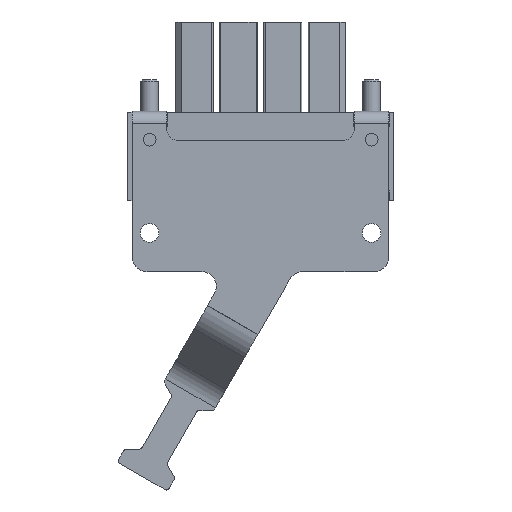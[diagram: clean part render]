
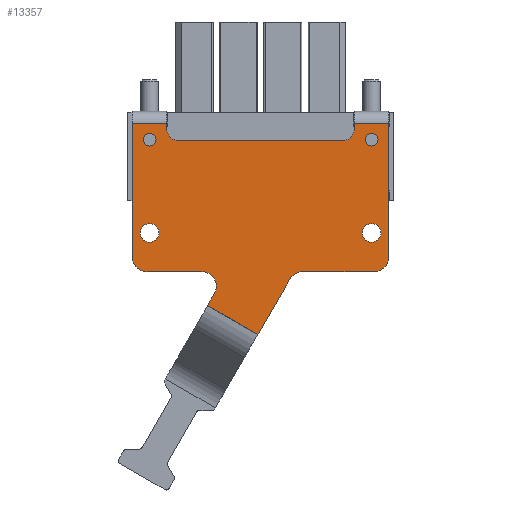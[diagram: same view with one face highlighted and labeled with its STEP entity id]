
A CAD part, front view. The second image highlights one B-rep face of the part: STEP entity #13357.
In plain terms, the highlighted planar face has unit normal (0, -1, 0).
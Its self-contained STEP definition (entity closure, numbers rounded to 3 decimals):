
#322=PLANE('',#15032);
#434=FACE_BOUND('',#1323,.T.);
#435=FACE_BOUND('',#1324,.T.);
#436=FACE_BOUND('',#1325,.T.);
#437=FACE_BOUND('',#1326,.T.);
#832=FACE_OUTER_BOUND('',#1322,.T.);
#1322=EDGE_LOOP('',(#12448,#12449,#12450,#12451,#12452,#12453,#12454,#12455,
#12456,#12457,#12458,#12459,#12460,#12461,#12462,#12463,#12464,#12465));
#1323=EDGE_LOOP('',(#12466));
#1324=EDGE_LOOP('',(#12467));
#1325=EDGE_LOOP('',(#12468));
#1326=EDGE_LOOP('',(#12469));
#3052=LINE('',#23405,#4980);
#3053=LINE('',#23407,#4981);
#3054=LINE('',#23411,#4982);
#3055=LINE('',#23415,#4983);
#3056=LINE('',#23417,#4984);
#3057=LINE('',#23419,#4985);
#3058=LINE('',#23423,#4986);
#3059=LINE('',#23427,#4987);
#3060=LINE('',#23429,#4988);
#3061=LINE('',#23431,#4989);
#3062=LINE('',#23435,#4990);
#3063=LINE('',#23438,#4991);
#4980=VECTOR('',#18221,5.9);
#4981=VECTOR('',#18222,23.);
#4982=VECTOR('',#18225,9.396);
#4983=VECTOR('',#18228,2.367);
#4984=VECTOR('',#18229,10.);
#4985=VECTOR('',#18230,11.027);
#4986=VECTOR('',#18233,12.283);
#4987=VECTOR('',#18236,23.);
#4988=VECTOR('',#18237,5.9);
#4989=VECTOR('',#18238,1.);
#4990=VECTOR('',#18241,28.2);
#4991=VECTOR('',#18244,1.);
#5600=CIRCLE('',#15033,2.5);
#5601=CIRCLE('',#15034,2.5);
#5602=CIRCLE('',#15035,2.5);
#5603=CIRCLE('',#15036,2.5);
#5604=CIRCLE('',#15037,2.);
#5605=CIRCLE('',#15038,2.);
#5606=CIRCLE('',#15039,1.6);
#5607=CIRCLE('',#15040,1.1);
#5608=CIRCLE('',#15041,1.6);
#5609=CIRCLE('',#15042,1.1);
#7672=VERTEX_POINT('',#23403);
#7673=VERTEX_POINT('',#23404);
#7674=VERTEX_POINT('',#23406);
#7675=VERTEX_POINT('',#23408);
#7676=VERTEX_POINT('',#23410);
#7677=VERTEX_POINT('',#23412);
#7678=VERTEX_POINT('',#23414);
#7679=VERTEX_POINT('',#23416);
#7680=VERTEX_POINT('',#23418);
#7681=VERTEX_POINT('',#23420);
#7682=VERTEX_POINT('',#23422);
#7683=VERTEX_POINT('',#23424);
#7684=VERTEX_POINT('',#23426);
#7685=VERTEX_POINT('',#23428);
#7686=VERTEX_POINT('',#23430);
#7687=VERTEX_POINT('',#23432);
#7688=VERTEX_POINT('',#23434);
#7689=VERTEX_POINT('',#23436);
#7690=VERTEX_POINT('',#23439);
#7691=VERTEX_POINT('',#23441);
#7692=VERTEX_POINT('',#23443);
#7693=VERTEX_POINT('',#23445);
#10060=EDGE_CURVE('',#7672,#7673,#3052,.T.);
#10061=EDGE_CURVE('',#7673,#7674,#3053,.T.);
#10062=EDGE_CURVE('',#7674,#7675,#5600,.T.);
#10063=EDGE_CURVE('',#7675,#7676,#3054,.T.);
#10064=EDGE_CURVE('',#7676,#7677,#5601,.T.);
#10065=EDGE_CURVE('',#7677,#7678,#3055,.T.);
#10066=EDGE_CURVE('',#7678,#7679,#3056,.T.);
#10067=EDGE_CURVE('',#7679,#7680,#3057,.T.);
#10068=EDGE_CURVE('',#7680,#7681,#5602,.T.);
#10069=EDGE_CURVE('',#7681,#7682,#3058,.T.);
#10070=EDGE_CURVE('',#7682,#7683,#5603,.T.);
#10071=EDGE_CURVE('',#7683,#7684,#3059,.T.);
#10072=EDGE_CURVE('',#7684,#7685,#3060,.T.);
#10073=EDGE_CURVE('',#7685,#7686,#3061,.T.);
#10074=EDGE_CURVE('',#7686,#7687,#5604,.T.);
#10075=EDGE_CURVE('',#7687,#7688,#3062,.T.);
#10076=EDGE_CURVE('',#7688,#7689,#5605,.T.);
#10077=EDGE_CURVE('',#7689,#7672,#3063,.T.);
#10078=EDGE_CURVE('',#7690,#7690,#5606,.T.);
#10079=EDGE_CURVE('',#7691,#7691,#5607,.T.);
#10080=EDGE_CURVE('',#7692,#7692,#5608,.T.);
#10081=EDGE_CURVE('',#7693,#7693,#5609,.T.);
#12448=ORIENTED_EDGE('',*,*,#10060,.T.);
#12449=ORIENTED_EDGE('',*,*,#10061,.T.);
#12450=ORIENTED_EDGE('',*,*,#10062,.T.);
#12451=ORIENTED_EDGE('',*,*,#10063,.T.);
#12452=ORIENTED_EDGE('',*,*,#10064,.T.);
#12453=ORIENTED_EDGE('',*,*,#10065,.T.);
#12454=ORIENTED_EDGE('',*,*,#10066,.T.);
#12455=ORIENTED_EDGE('',*,*,#10067,.T.);
#12456=ORIENTED_EDGE('',*,*,#10068,.T.);
#12457=ORIENTED_EDGE('',*,*,#10069,.T.);
#12458=ORIENTED_EDGE('',*,*,#10070,.T.);
#12459=ORIENTED_EDGE('',*,*,#10071,.T.);
#12460=ORIENTED_EDGE('',*,*,#10072,.T.);
#12461=ORIENTED_EDGE('',*,*,#10073,.T.);
#12462=ORIENTED_EDGE('',*,*,#10074,.T.);
#12463=ORIENTED_EDGE('',*,*,#10075,.T.);
#12464=ORIENTED_EDGE('',*,*,#10076,.T.);
#12465=ORIENTED_EDGE('',*,*,#10077,.T.);
#12466=ORIENTED_EDGE('',*,*,#10078,.T.);
#12467=ORIENTED_EDGE('',*,*,#10079,.T.);
#12468=ORIENTED_EDGE('',*,*,#10080,.T.);
#12469=ORIENTED_EDGE('',*,*,#10081,.T.);
#13357=ADVANCED_FACE('',(#832,#434,#435,#436,#437),#322,.T.);
#15032=AXIS2_PLACEMENT_3D('',#23402,#18219,#18220);
#15033=AXIS2_PLACEMENT_3D('',#23409,#18223,#18224);
#15034=AXIS2_PLACEMENT_3D('',#23413,#18226,#18227);
#15035=AXIS2_PLACEMENT_3D('',#23421,#18231,#18232);
#15036=AXIS2_PLACEMENT_3D('',#23425,#18234,#18235);
#15037=AXIS2_PLACEMENT_3D('',#23433,#18239,#18240);
#15038=AXIS2_PLACEMENT_3D('',#23437,#18242,#18243);
#15039=AXIS2_PLACEMENT_3D('',#23440,#18245,#18246);
#15040=AXIS2_PLACEMENT_3D('',#23442,#18247,#18248);
#15041=AXIS2_PLACEMENT_3D('',#23444,#18249,#18250);
#15042=AXIS2_PLACEMENT_3D('',#23446,#18251,#18252);
#18219=DIRECTION('center_axis',(0.,-1.,0.));
#18220=DIRECTION('ref_axis',(0.,0.,-1.));
#18221=DIRECTION('',(-1.,0.,0.));
#18222=DIRECTION('',(0.,0.,-1.));
#18223=DIRECTION('center_axis',(0.,-1.,0.));
#18224=DIRECTION('ref_axis',(1.,0.,0.));
#18225=DIRECTION('',(1.,0.,0.));
#18226=DIRECTION('center_axis',(0.,1.,0.));
#18227=DIRECTION('ref_axis',(1.,0.,0.));
#18228=DIRECTION('',(-0.5,0.,-0.866));
#18229=DIRECTION('',(0.866,0.,-0.5));
#18230=DIRECTION('',(0.5,0.,0.866));
#18231=DIRECTION('center_axis',(0.,1.,0.));
#18232=DIRECTION('ref_axis',(1.,0.,0.));
#18233=DIRECTION('',(1.,0.,0.));
#18234=DIRECTION('center_axis',(0.,-1.,0.));
#18235=DIRECTION('ref_axis',(1.,0.,0.));
#18236=DIRECTION('',(0.,0.,1.));
#18237=DIRECTION('',(-1.,0.,0.));
#18238=DIRECTION('',(0.,0.,-1.));
#18239=DIRECTION('center_axis',(0.,1.,0.));
#18240=DIRECTION('ref_axis',(1.,0.,0.));
#18241=DIRECTION('',(-1.,0.,0.));
#18242=DIRECTION('center_axis',(0.,1.,0.));
#18243=DIRECTION('ref_axis',(1.,0.,0.));
#18244=DIRECTION('',(0.,0.,1.));
#18245=DIRECTION('center_axis',(0.,1.,0.));
#18246=DIRECTION('ref_axis',(1.,0.,0.));
#18247=DIRECTION('center_axis',(0.,1.,0.));
#18248=DIRECTION('ref_axis',(1.,0.,0.));
#18249=DIRECTION('center_axis',(0.,1.,0.));
#18250=DIRECTION('ref_axis',(1.,0.,0.));
#18251=DIRECTION('center_axis',(0.,1.,0.));
#18252=DIRECTION('ref_axis',(1.,0.,0.));
#23402=CARTESIAN_POINT('Origin',(-6.76,-1.5,5.541));
#23403=CARTESIAN_POINT('',(-0.86,-1.5,23.8));
#23404=CARTESIAN_POINT('',(-6.76,-1.5,23.8));
#23405=CARTESIAN_POINT('',(-0.86,-1.5,23.8));
#23406=CARTESIAN_POINT('',(-6.76,-1.5,0.8));
#23407=CARTESIAN_POINT('',(-6.76,-1.5,23.8));
#23408=CARTESIAN_POINT('',(-4.26,-1.5,-1.7));
#23409=CARTESIAN_POINT('Origin',(-4.26,-1.5,0.8));
#23410=CARTESIAN_POINT('',(5.136,-1.5,-1.7));
#23411=CARTESIAN_POINT('',(-4.26,-1.5,-1.7));
#23412=CARTESIAN_POINT('',(7.301,-1.5,-5.45));
#23413=CARTESIAN_POINT('Origin',(5.136,-1.5,-4.2));
#23414=CARTESIAN_POINT('',(6.118,-1.5,-7.5));
#23415=CARTESIAN_POINT('',(7.301,-1.5,-5.45));
#23416=CARTESIAN_POINT('',(14.778,-1.5,-12.5));
#23417=CARTESIAN_POINT('',(6.118,-1.5,-7.5));
#23418=CARTESIAN_POINT('',(20.292,-1.5,-2.95));
#23419=CARTESIAN_POINT('',(14.778,-1.5,-12.5));
#23420=CARTESIAN_POINT('',(22.457,-1.5,-1.7));
#23421=CARTESIAN_POINT('Origin',(22.457,-1.5,-4.2));
#23422=CARTESIAN_POINT('',(34.74,-1.5,-1.7));
#23423=CARTESIAN_POINT('',(22.457,-1.5,-1.7));
#23424=CARTESIAN_POINT('',(37.24,-1.5,0.8));
#23425=CARTESIAN_POINT('Origin',(34.74,-1.5,0.8));
#23426=CARTESIAN_POINT('',(37.24,-1.5,23.8));
#23427=CARTESIAN_POINT('',(37.24,-1.5,0.8));
#23428=CARTESIAN_POINT('',(31.34,-1.5,23.8));
#23429=CARTESIAN_POINT('',(37.24,-1.5,23.8));
#23430=CARTESIAN_POINT('',(31.34,-1.5,22.8));
#23431=CARTESIAN_POINT('',(31.34,-1.5,23.8));
#23432=CARTESIAN_POINT('',(29.34,-1.5,20.8));
#23433=CARTESIAN_POINT('Origin',(29.34,-1.5,22.8));
#23434=CARTESIAN_POINT('',(1.14,-1.5,20.8));
#23435=CARTESIAN_POINT('',(29.34,-1.5,20.8));
#23436=CARTESIAN_POINT('',(-0.86,-1.5,22.8));
#23437=CARTESIAN_POINT('Origin',(1.14,-1.5,22.8));
#23438=CARTESIAN_POINT('',(-0.86,-1.5,22.8));
#23439=CARTESIAN_POINT('',(-3.81,-1.5,6.55));
#23440=CARTESIAN_POINT('Origin',(-3.81,-1.5,4.95));
#23441=CARTESIAN_POINT('',(-3.81,-1.5,22.05));
#23442=CARTESIAN_POINT('Origin',(-3.81,-1.5,20.95));
#23443=CARTESIAN_POINT('',(34.29,-1.5,6.55));
#23444=CARTESIAN_POINT('Origin',(34.29,-1.5,4.95));
#23445=CARTESIAN_POINT('',(34.29,-1.5,22.05));
#23446=CARTESIAN_POINT('Origin',(34.29,-1.5,20.95));
